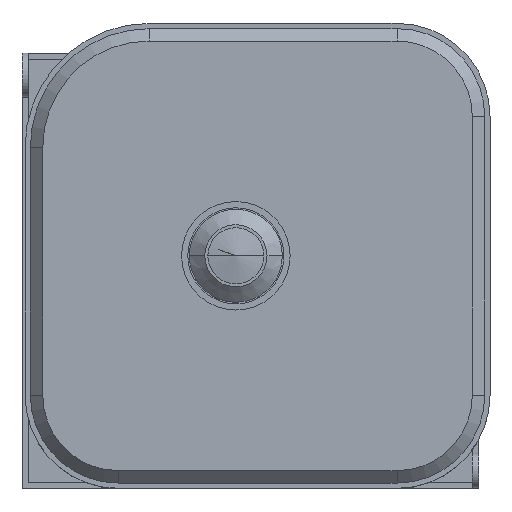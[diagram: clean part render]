
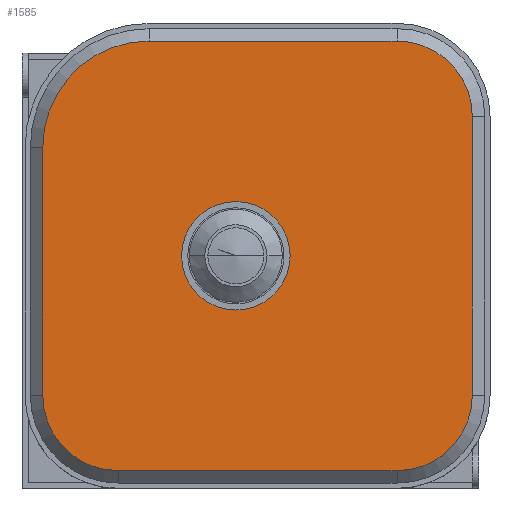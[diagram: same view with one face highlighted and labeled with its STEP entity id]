
A CAD part, top view. The second image highlights one B-rep face of the part: STEP entity #1585.
In plain terms, the highlighted planar face has unit normal (0, 0, 1) as drawn and (0, 1, 0) by its records, which use the part's own axes.
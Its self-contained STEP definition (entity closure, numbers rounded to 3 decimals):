
#994=CARTESIAN_POINT('',(9.5,0.,-6.8));
#995=DIRECTION('',(0.,1.,0.));
#996=DIRECTION('',(0.,0.,1.));
#997=AXIS2_PLACEMENT_3D('',#994,#995,#996);
#999=CARTESIAN_POINT('',(9.5,0.,-6.8));
#1000=DIRECTION('',(0.,1.,0.));
#1001=DIRECTION('',(0.,0.,-1.));
#1002=AXIS2_PLACEMENT_3D('',#999,#1000,#1001);
#1086=CARTESIAN_POINT('',(5.,0.,-12.));
#1087=DIRECTION('',(0.,-1.,0.));
#1088=DIRECTION('',(-1.,0.,0.));
#1089=AXIS2_PLACEMENT_3D('',#1086,#1087,#1088);
#1095=DIRECTION('',(1.,0.,0.));
#1096=VECTOR('',#1095,9.);
#1097=CARTESIAN_POINT('',(5.,0.,-14.43));
#1098=LINE('',#1097,#1096);
#1103=CARTESIAN_POINT('',(14.,0.,-12.));
#1104=DIRECTION('',(0.,-1.,0.));
#1105=DIRECTION('',(0.,0.,-1.));
#1106=AXIS2_PLACEMENT_3D('',#1103,#1104,#1105);
#1120=DIRECTION('',(0.,0.,1.));
#1121=VECTOR('',#1120,9.);
#1122=CARTESIAN_POINT('',(16.43,0.,-12.));
#1123=LINE('',#1122,#1121);
#1400=CARTESIAN_POINT('',(6.,0.,-4.));
#1401=DIRECTION('',(0.,-1.,0.));
#1402=DIRECTION('',(0.,0.,1.));
#1403=AXIS2_PLACEMENT_3D('',#1400,#1401,#1402);
#1409=DIRECTION('',(-1.,0.,0.));
#1410=VECTOR('',#1409,8.);
#1411=CARTESIAN_POINT('',(14.,0.,-0.57));
#1412=LINE('',#1411,#1410);
#1417=CARTESIAN_POINT('',(14.,0.,-3.));
#1418=DIRECTION('',(0.,-1.,0.));
#1419=DIRECTION('',(1.,0.,0.));
#1420=AXIS2_PLACEMENT_3D('',#1417,#1418,#1419);
#1422=DIRECTION('',(0.,0.,-1.));
#1423=VECTOR('',#1422,8.);
#1424=CARTESIAN_POINT('',(2.57,0.,-4.));
#1425=LINE('',#1424,#1423);
#1430=CARTESIAN_POINT('',(2.57,0.,-12.));
#1431=CARTESIAN_POINT('',(5.,0.,-14.43));
#1432=VERTEX_POINT('',#1430);
#1433=VERTEX_POINT('',#1431);
#1460=CARTESIAN_POINT('',(16.43,0.,-3.));
#1462=VERTEX_POINT('',#1460);
#1472=CARTESIAN_POINT('',(16.43,0.,-12.));
#1473=VERTEX_POINT('',#1472);
#1480=CARTESIAN_POINT('',(2.57,0.,-4.));
#1481=VERTEX_POINT('',#1480);
#1482=CARTESIAN_POINT('',(6.,0.,-0.57));
#1483=VERTEX_POINT('',#1482);
#1484=CARTESIAN_POINT('',(14.,0.,-14.43));
#1485=VERTEX_POINT('',#1484);
#1486=CARTESIAN_POINT('',(14.,0.,-0.57));
#1487=VERTEX_POINT('',#1486);
#1548=CARTESIAN_POINT('',(9.5,0.,-5.05));
#1549=CARTESIAN_POINT('',(9.5,0.,-8.55));
#1550=VERTEX_POINT('',#1548);
#1551=VERTEX_POINT('',#1549);
#1556=CARTESIAN_POINT('',(14.,0.,-3.));
#1557=DIRECTION('',(0.,-1.,0.));
#1558=DIRECTION('',(0.,0.,-1.));
#1559=AXIS2_PLACEMENT_3D('',#1556,#1557,#1558);
#1560=PLANE('',#1559);
#1562=ORIENTED_EDGE('',*,*,#1561,.T.);
#1564=ORIENTED_EDGE('',*,*,#1563,.T.);
#1566=ORIENTED_EDGE('',*,*,#1565,.T.);
#1568=ORIENTED_EDGE('',*,*,#1567,.T.);
#1570=ORIENTED_EDGE('',*,*,#1569,.T.);
#1572=ORIENTED_EDGE('',*,*,#1571,.T.);
#1574=ORIENTED_EDGE('',*,*,#1573,.T.);
#1576=ORIENTED_EDGE('',*,*,#1575,.T.);
#1577=EDGE_LOOP('',(#1562,#1564,#1566,#1568,#1570,#1572,#1574,#1576));
#1578=FACE_OUTER_BOUND('',#1577,.F.);
#1580=ORIENTED_EDGE('',*,*,#1579,.T.);
#1582=ORIENTED_EDGE('',*,*,#1581,.T.);
#1583=EDGE_LOOP('',(#1580,#1582));
#1584=FACE_BOUND('',#1583,.F.);
#1585=ADVANCED_FACE('',(#1578,#1584),#1560,.F.);
#998=CIRCLE('',#997,1.75);
#1003=CIRCLE('',#1002,1.75);
#1090=CIRCLE('',#1089,2.43);
#1107=CIRCLE('',#1106,2.43);
#1404=CIRCLE('',#1403,3.43);
#1421=CIRCLE('',#1420,2.43);
#1561=EDGE_CURVE('',#1432,#1433,#1090,.T.);
#1563=EDGE_CURVE('',#1433,#1485,#1098,.T.);
#1565=EDGE_CURVE('',#1485,#1473,#1107,.T.);
#1567=EDGE_CURVE('',#1473,#1462,#1123,.T.);
#1569=EDGE_CURVE('',#1462,#1487,#1421,.T.);
#1571=EDGE_CURVE('',#1487,#1483,#1412,.T.);
#1573=EDGE_CURVE('',#1483,#1481,#1404,.T.);
#1575=EDGE_CURVE('',#1481,#1432,#1425,.T.);
#1579=EDGE_CURVE('',#1550,#1551,#998,.T.);
#1581=EDGE_CURVE('',#1551,#1550,#1003,.T.);
